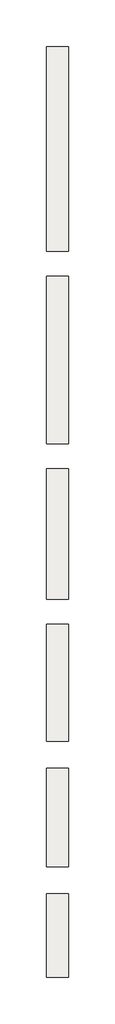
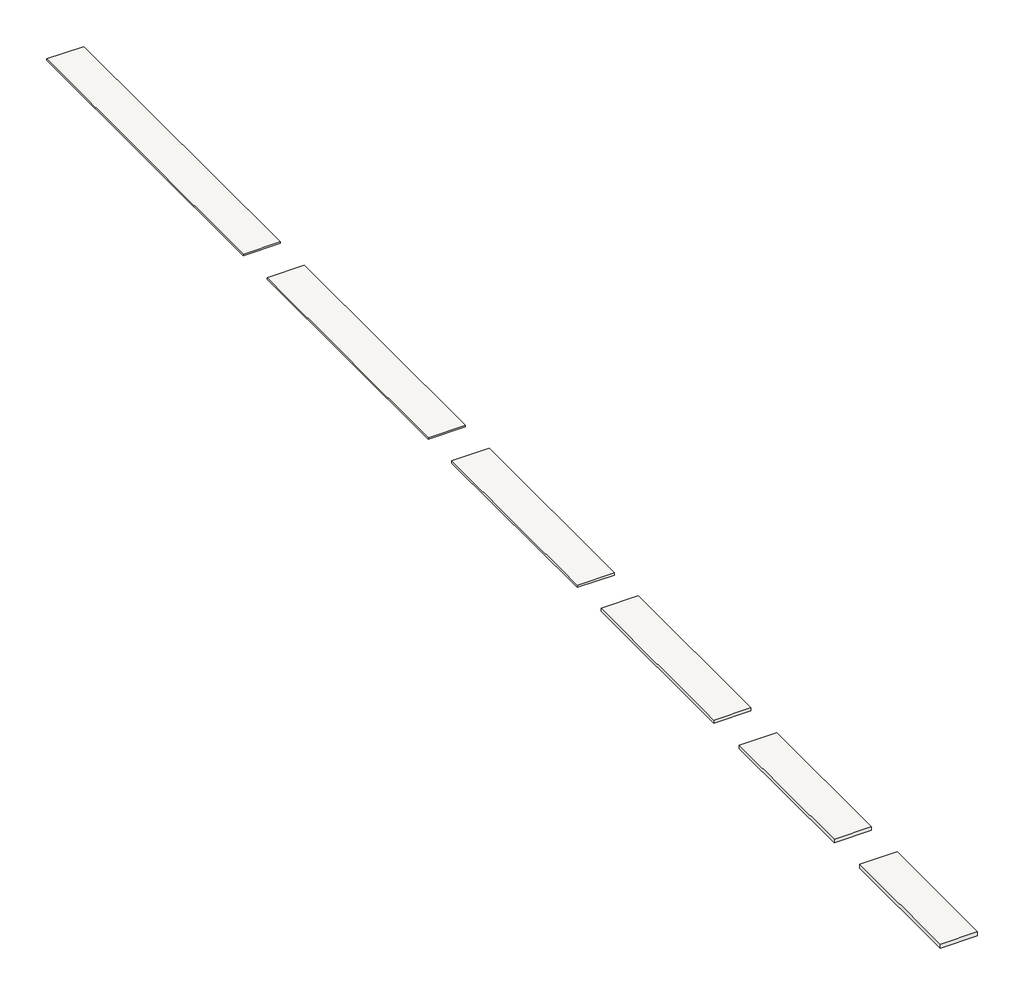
# One storey: 6 roofs.
"""IFC4 building model written with IfcOpenShell, lengths in millimetres."""

from ifc_helpers import new_model, si_unit, origin, origin_with_axes, place, context, project, spatial, polyline, outline, extrude, element, save

model = new_model("IFC4")

# Units and contexts
model_context = context("Model", 3, world=origin())
ifc_project = project(units=[si_unit("LENGTHUNIT", "METRE", prefix="MILLI")], contexts=[model_context])

# Site, building, storey
site = spatial("IfcSite", under=ifc_project)
building = spatial("IfcBuilding", under=site)
storey = spatial("IfcBuildingStorey", under=building, Name="Референтни ниво", Elevation=0.0)

# Roofs
placement = place(None, origin())
element("IfcRoof", 1, ObjectType="Knauf Insulation - Unifit 035 - 50 mm - 50 x 11000 x 1200 mm", at=placement, inside=storey, context=model_context, shape_type="SweptSolid", body=[
    extrude(outline(polyline([(-225400.0, 183272.205474), (-224200.0, 183272.205474), (-224200.0, 172272.205474), (-225400.0, 172272.205474), (-225400.0, 183272.205474)])), origin_with_axes(), (0.0, 0.0, 1.0), 50.0),
])
element("IfcRoof", 2, ObjectType="Knauf Insulation - Unifit 035 - 60 mm - 60 x 9000 x 1200 mm", at=placement, inside=storey, context=model_context, shape_type="SweptSolid", body=[
    extrude(outline(polyline([(-225400.0, 170932.205474), (-224200.0, 170932.205474), (-224200.0, 161932.205474), (-225400.0, 161932.205474), (-225400.0, 170932.205474)])), origin_with_axes(), (0.0, 0.0, 1.0), 60.0),
])
element("IfcRoof", 3, ObjectType="Knauf Insulation - Unifit 035 - 80 mm - 80 x 7000 x 1200 mm", at=placement, inside=storey, context=model_context, shape_type="SweptSolid", body=[
    extrude(outline(polyline([(-225400.0, 160592.205474), (-224200.0, 160592.205474), (-224200.0, 153592.205474), (-225400.0, 153592.205474), (-225400.0, 160592.205474)])), origin_with_axes(), (0.0, 0.0, 1.0), 80.0),
])
element("IfcRoof", 4, ObjectType="Knauf Insulation - Unifit 035 - 100 mm - 100 x 6300 x 1200 mm", at=placement, inside=storey, context=model_context, shape_type="SweptSolid", body=[
    extrude(outline(polyline([(-225400.0, 152252.205474), (-224200.0, 152252.205474), (-224200.0, 145952.205474), (-225400.0, 145952.205474), (-225400.0, 152252.205474)])), origin_with_axes(), (0.0, 0.0, 1.0), 100.0),
])
element("IfcRoof", 5, ObjectType="Knauf Insulation - Unifit 035 - 120 mm - 120 x 5300 x 1200 mm", at=placement, inside=storey, context=model_context, shape_type="SweptSolid", body=[
    extrude(outline(polyline([(-225400.0, 144512.205474), (-224200.0, 144512.205474), (-224200.0, 139212.205474), (-225400.0, 139212.205474), (-225400.0, 144512.205474)])), origin_with_axes(), (0.0, 0.0, 1.0), 120.0),
])
element("IfcRoof", 6, ObjectType="Knauf Insulation - Unifit 035 - 140 mm - 140 x 4500 x 1200 mm", at=placement, inside=storey, context=model_context, shape_type="SweptSolid", body=[
    extrude(outline(polyline([(-225400.0, 137772.205474), (-224200.0, 137772.205474), (-224200.0, 133272.205474), (-225400.0, 133272.205474), (-225400.0, 137772.205474)])), origin_with_axes(), (0.0, 0.0, 1.0), 140.0),
])

save(model, "model.ifc")
